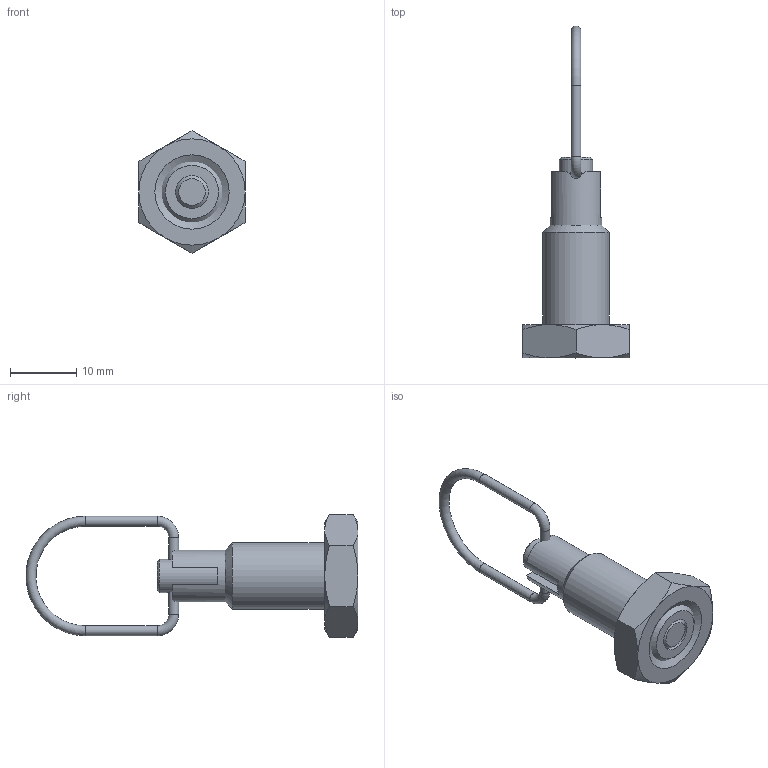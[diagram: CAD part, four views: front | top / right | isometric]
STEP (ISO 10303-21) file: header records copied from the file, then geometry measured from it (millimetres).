
FILE_DESCRIPTION( ( 'STEP AP203' ), '1' );
FILE_NAME( 'C:/Temp/Ganter_Step_05_03_2020/data/3_1/gn_413/gn413_ni/gn413_ni_ck/Stainless Steel Indexing plunger GN 413-5-M10-CK-NI (activated 0).stp', '2020-03-12T09:11:31', ( 'License CC BY-ND 4.0' ), ( 'CADENAS' ), ' ', 'PARTsolutions', ' ' );
FILE_SCHEMA( ( 'CONFIG_CONTROL_DESIGN' ) );
Length unit declared in the file: millimetre
Products named in the file (4): Stainless Steel Indexing plunger GN 413-5-M10-CK-NI (activated 0); _Stainless Steel Indexing plunger GN 413-5-M10-CK-NI (2)_f; _Stainless Steel Indexing plunger GN 413-5-M10-CK-NI (2)_b; _Stainless Steel Indexing plunger GN 413-5-M10-CK-NI (2)_km
Assembly tree (3 placements, depth 2):
  Stainless Steel Indexing plunger GN 413-5-M10-CK-NI (activated 0)
    _Stainless Steel Indexing plunger GN 413-5-M10-CK-NI (2)_f
    _Stainless Steel Indexing plunger GN 413-5-M10-CK-NI (2)_b
    _Stainless Steel Indexing plunger GN 413-5-M10-CK-NI (2)_km
Bounding box: 16 x 49.98 x 18.48 mm (x, y, z)
Volume: 2706.5 mm3; surface area: 2893.1 mm2
Topology: 3 solids, 3 shells, 65 faces, 142 edges, 86 vertices
Faces by surface type: plane 25, cone 21, cylinder 16, torus 3
Full cylindrical faces by diameter (mm): 1.5 x4, 5 x4, 5.3 x1, 6.5 x2, 7.8 x1, 8.376 x1, 10 x1
Entity records: 1925 total; most frequent: CARTESIAN_POINT 509, DIRECTION 274, ORIENTED_EDGE 222, AXIS2_PLACEMENT_3D 124, EDGE_CURVE 111, EDGE_LOOP 100, FACE_OUTER_BOUND 82, VERTEX_POINT 81
